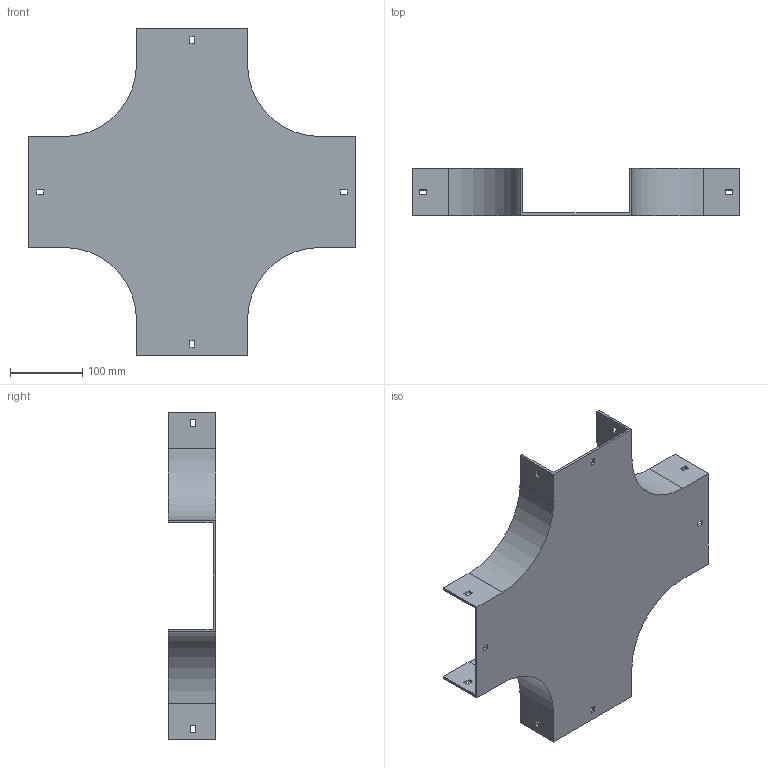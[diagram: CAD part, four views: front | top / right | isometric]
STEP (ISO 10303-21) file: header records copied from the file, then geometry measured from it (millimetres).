
FILE_DESCRIPTION (( 'STEP AP214' ), '1' );
FILE_NAME ('17B1H150.step', '2025-02-21T09:57:41', ( '' ), ( '' ), 'SwSTEP 2.0', 'SolidWorks 2023', '' );
FILE_SCHEMA (( 'AUTOMOTIVE_DESIGN' ));
Length unit declared in the file: millimetre
Products named in the file (1): 17B1H150
Bounding box: 454 x 65.5 x 454 mm (x, y, z)
Volume: 659202.4 mm3; surface area: 385564.2 mm2
Topology: 1 solids, 1 shells, 82 faces, 240 edges, 160 vertices
Faces by surface type: plane 74, cylinder 8
Entity records: 2751 total; most frequent: CARTESIAN_POINT 483, ORIENTED_EDGE 480, DIRECTION 422, EDGE_CURVE 240, LINE 224, VECTOR 224, VERTEX_POINT 160, EDGE_LOOP 106
